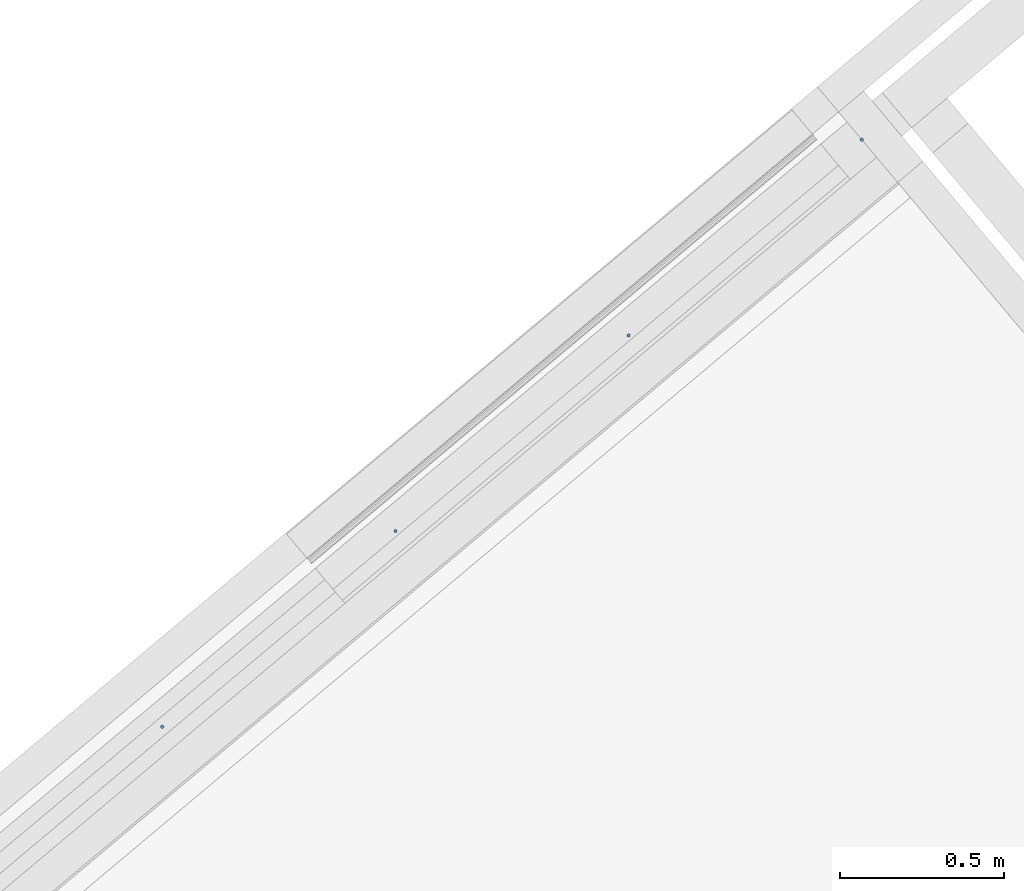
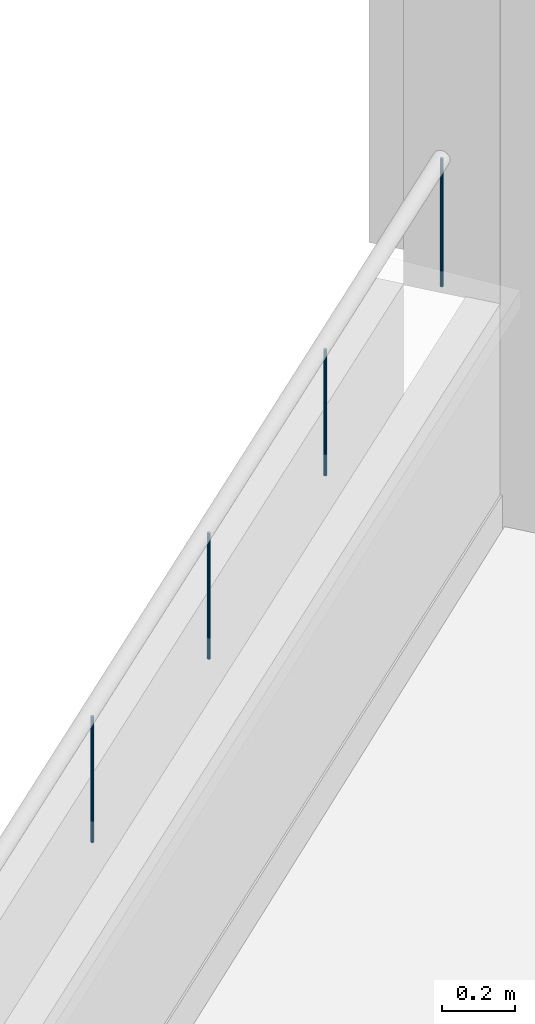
# One storey, part 13 of 321: 4 members, 1 element without a shape of its own.
"""IFC2X3 building model written with IfcOpenShell, lengths in millimetres."""

from ifc_helpers import new_model, entity, si_unit, converted_unit, derived_unit, money_unit, direction, frame, origin_with_axes, place, context, subcontext, project, spatial, faceted_brep, source, transform, mapped, material, type_object, type_shapes, element, aggregate, save


model = new_model("IFC2X3")

# Units and contexts
model_context = context("Model", 3, precision=0.01, world=origin_with_axes(), true_north=direction((0.0, 1.0)))
plan_context = context("Plan", 3, precision=0.01, world=origin_with_axes(), true_north=direction((0.0, 1.0)))
body_context = subcontext(model_context, "Body", "Model", "MODEL_VIEW")
ifc_project = project(units=[si_unit("LENGTHUNIT", "METRE", prefix="MILLI"), si_unit("AREAUNIT", "SQUARE_METRE"), si_unit("VOLUMEUNIT", "CUBIC_METRE"), converted_unit("PLANEANGLEUNIT", "DEGREE", entity("IfcPlaneAngleMeasure", 0.0174532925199), si_unit("PLANEANGLEUNIT", "RADIAN"), dimensions=[0, 0, 0, 0, 0, 0, 0]), money_unit("EUR"), converted_unit("TIMEUNIT", "Year", entity("IfcTimeMeasure", 31556926.0), si_unit("TIMEUNIT", "SECOND"), dimensions=[0, 0, 1, 0, 0, 0, 0]), si_unit("MASSUNIT", "GRAM", prefix="KILO"), si_unit("THERMODYNAMICTEMPERATUREUNIT", "DEGREE_CELSIUS"), si_unit("LUMINOUSINTENSITYUNIT", "LUMEN"), si_unit("ENERGYUNIT", "JOULE", prefix="MEGA"), derived_unit("THERMALCONDUCTANCEUNIT", [(si_unit("POWERUNIT", "WATT"), 1), (si_unit("LENGTHUNIT", "METRE"), -1), (si_unit("THERMODYNAMICTEMPERATUREUNIT", "KELVIN"), -1)]), derived_unit("SPECIFICHEATCAPACITYUNIT", [(si_unit("ENERGYUNIT", "JOULE"), 1), (si_unit("MASSUNIT", "GRAM", prefix="KILO"), -1), (si_unit("THERMODYNAMICTEMPERATUREUNIT", "KELVIN"), -1)]), derived_unit("MASSDENSITYUNIT", [(si_unit("MASSUNIT", "GRAM", prefix="KILO"), 1), (si_unit("VOLUMEUNIT", "CUBIC_METRE"), -1)])], contexts=[model_context, plan_context])

# Site, building, storey
site_placement = place(None, origin_with_axes())
site = spatial("IfcSite", under=ifc_project, at=site_placement, Name="Fortuinstraat Woensdrecht", CompositionType="ELEMENT")
building_placement = place(site_placement, origin_with_axes())
building = spatial("IfcBuilding", under=site, at=building_placement, Name="IKC Fortuna", CompositionType="ELEMENT")
storey_placement = place(building_placement, frame((0.0, 0.0, 4000.0), z_axis=(0.0, 0.0, 1.0), x_axis=(1.0, 0.0, 0.0)))
storey = spatial("IfcBuildingStorey", under=building, at=storey_placement, Name="01 eerste verdieping", CompositionType="ELEMENT", Elevation=4000.0)

# Railing, members
railing_type = type_object("IfcRailingType", Name="Railing Type", PredefinedType="NOTDEFINED")
railing_placement = place(storey_placement, frame((4151.56334028, 3601.06192057, 2353.5), z_axis=(0.0, 0.0, 1.0), x_axis=(1.0, 0.0, 0.0)))
railing = element("IfcRailing", 1, at=railing_placement, inside=storey, type_object=railing_type, Name="34_Reling_Reling vide", PredefinedType="NOTDEFINED")
ifc_material = material(Name="Metaal - Staal AFW")
member_type_1 = type_object("IfcMemberType", Name="IfcMember", PredefinedType="POST")
shared_shape_1 = source(origin_with_axes(), body_context, "Body", "Brep", [
    faceted_brep([(0.0, -5.0, 0.0), (0.868240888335, -4.92403876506, 0.0), (0.868240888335, -4.92403876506, 425.0), (0.0, -5.0, 425.0), (-0.868240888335, -4.92403876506, 0.0), (-1.71010071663, -4.69846310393, 0.0), (-2.5, -4.33012701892, 0.0), (-3.21393804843, -3.83022221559, 0.0), (-3.83022221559, -3.21393804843, 0.0), (-4.33012701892, -2.5, 0.0), (-4.69846310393, -1.71010071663, 0.0), (-4.92403876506, -0.868240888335, 0.0), (-5.0, 0.0, 0.0), (-4.92403876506, 0.868240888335, 0.0), (-4.69846310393, 1.71010071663, 0.0), (-4.33012701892, 2.5, 0.0), (-3.83022221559, 3.21393804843, 0.0), (-3.21393804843, 3.83022221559, 0.0), (-2.5, 4.33012701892, 0.0), (-1.71010071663, 4.69846310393, 0.0), (-0.868240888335, 4.92403876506, 0.0), (0.0, 5.0, 0.0), (0.868240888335, 4.92403876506, 0.0), (1.71010071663, 4.69846310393, 0.0), (2.5, 4.33012701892, 0.0), (3.21393804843, 3.83022221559, 0.0), (3.83022221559, 3.21393804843, 0.0), (4.33012701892, 2.5, 0.0), (4.69846310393, 1.71010071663, 0.0), (4.92403876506, 0.868240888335, 0.0), (5.0, 0.0, 0.0), (4.92403876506, -0.868240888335, 0.0), (4.69846310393, -1.71010071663, 0.0), (4.33012701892, -2.5, 0.0), (3.83022221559, -3.21393804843, 0.0), (3.21393804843, -3.83022221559, 0.0), (2.5, -4.33012701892, 0.0), (1.71010071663, -4.69846310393, 0.0), (1.71010071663, -4.69846310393, 425.0), (2.5, -4.33012701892, 425.0), (3.21393804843, -3.83022221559, 425.0), (3.83022221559, -3.21393804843, 425.0), (4.33012701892, -2.5, 425.0), (4.69846310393, -1.71010071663, 425.0), (4.92403876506, -0.868240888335, 425.0), (5.0, 0.0, 425.0), (4.92403876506, 0.868240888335, 425.0), (4.69846310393, 1.71010071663, 425.0), (4.33012701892, 2.5, 425.0), (3.83022221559, 3.21393804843, 425.0), (3.21393804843, 3.83022221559, 425.0), (2.5, 4.33012701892, 425.0), (1.71010071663, 4.69846310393, 425.0), (0.868240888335, 4.92403876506, 425.0), (0.0, 5.0, 425.0), (-0.868240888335, 4.92403876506, 425.0), (-1.71010071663, 4.69846310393, 425.0), (-2.5, 4.33012701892, 425.0), (-3.21393804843, 3.83022221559, 425.0), (-3.83022221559, 3.21393804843, 425.0), (-4.33012701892, 2.5, 425.0), (-4.69846310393, 1.71010071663, 425.0), (-4.92403876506, 0.868240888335, 425.0), (-5.0, 0.0, 425.0), (-4.92403876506, -0.868240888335, 425.0), (-4.69846310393, -1.71010071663, 425.0), (-4.33012701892, -2.5, 425.0), (-3.83022221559, -3.21393804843, 425.0), (-3.21393804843, -3.83022221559, 425.0), (-2.5, -4.33012701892, 425.0), (-1.71010071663, -4.69846310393, 425.0), (-0.868240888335, -4.92403876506, 425.0)], [[[0, 1, 2, 3]], [[0, 4, 5, 6, 7, 8, 9, 10, 11, 12, 13, 14, 15, 16, 17, 18, 19, 20, 21, 22, 23, 24, 25, 26, 27, 28, 29, 30, 31, 32, 33, 34, 35, 36, 37, 1]], [[1, 37, 38, 2]], [[3, 2, 38, 39, 40, 41, 42, 43, 44, 45, 46, 47, 48, 49, 50, 51, 52, 53, 54, 55, 56, 57, 58, 59, 60, 61, 62, 63, 64, 65, 66, 67, 68, 69, 70, 71]], [[4, 0, 3, 71]], [[5, 4, 71, 70]], [[6, 5, 70, 69]], [[7, 6, 69, 68]], [[8, 7, 68, 67]], [[9, 8, 67, 66]], [[10, 9, 66, 65]], [[11, 10, 65, 64]], [[12, 11, 64, 63]], [[13, 12, 63, 62]], [[14, 13, 62, 61]], [[15, 14, 61, 60]], [[16, 15, 60, 59]], [[17, 16, 59, 58]], [[18, 17, 58, 57]], [[19, 18, 57, 56]], [[20, 19, 56, 55]], [[21, 20, 55, 54]], [[22, 21, 54, 53]], [[23, 22, 53, 52]], [[24, 23, 52, 51]], [[25, 24, 51, 50]], [[26, 25, 50, 49]], [[27, 26, 49, 48]], [[28, 27, 48, 47]], [[29, 28, 47, 46]], [[30, 29, 46, 45]], [[31, 30, 45, 44]], [[32, 31, 44, 43]], [[33, 32, 43, 42]], [[34, 33, 42, 41]], [[35, 34, 41, 40]], [[36, 35, 40, 39]], [[37, 36, 39, 38]]]),
])
type_shapes(member_type_1, [shared_shape_1])
member_1_placement = place(railing_placement, frame((12.7791375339, -15.3851730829, 0.0), z_axis=(0.0, 0.0, 1.0), x_axis=(1.0, 0.0, 0.0)))
member_1 = element("IfcMember", 2, at=member_1_placement, type_object=member_type_1, material=ifc_material, Name="_Reling - baluster_", ObjectType="POST", context=body_context, shape_type="MappedRepresentation", body=[
    mapped(shared_shape_1, transform((0.0, 0.0, 0.0), x_axis=(-0.642787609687, 0.766044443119, 0.0), y_axis=(-0.766044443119, -0.642787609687, 0.0), z_axis=(0.0, 0.0, 1.0))),
])
member_type_2 = type_object("IfcMemberType", Name="IfcMember", PredefinedType="MEMBER")
shared_shape_2 = source(origin_with_axes(), body_context, "Body", "Brep", [
    faceted_brep([(0.0, -5.0, 0.0), (0.868240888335, -4.92403876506, 0.0), (0.868240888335, -4.92403876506, 418.5), (0.0, -5.0, 418.5), (-0.868240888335, -4.92403876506, 0.0), (-1.71010071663, -4.69846310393, 0.0), (-2.5, -4.33012701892, 0.0), (-3.21393804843, -3.83022221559, 0.0), (-3.83022221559, -3.21393804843, 0.0), (-4.33012701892, -2.5, 0.0), (-4.69846310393, -1.71010071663, 0.0), (-4.92403876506, -0.868240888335, 0.0), (-5.0, 0.0, 0.0), (-4.92403876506, 0.868240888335, 0.0), (-4.69846310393, 1.71010071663, 0.0), (-4.33012701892, 2.5, 0.0), (-3.83022221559, 3.21393804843, 0.0), (-3.21393804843, 3.83022221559, 0.0), (-2.5, 4.33012701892, 0.0), (-1.71010071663, 4.69846310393, 0.0), (-0.868240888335, 4.92403876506, 0.0), (0.0, 5.0, 0.0), (0.868240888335, 4.92403876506, 0.0), (1.71010071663, 4.69846310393, 0.0), (2.5, 4.33012701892, 0.0), (3.21393804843, 3.83022221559, 0.0), (3.83022221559, 3.21393804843, 0.0), (4.33012701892, 2.5, 0.0), (4.69846310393, 1.71010071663, 0.0), (4.92403876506, 0.868240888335, 0.0), (5.0, 0.0, 0.0), (4.92403876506, -0.868240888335, 0.0), (4.69846310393, -1.71010071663, 0.0), (4.33012701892, -2.5, 0.0), (3.83022221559, -3.21393804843, 0.0), (3.21393804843, -3.83022221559, 0.0), (2.5, -4.33012701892, 0.0), (1.71010071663, -4.69846310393, 0.0), (1.71010071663, -4.69846310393, 418.5), (2.5, -4.33012701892, 418.5), (3.21393804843, -3.83022221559, 418.5), (3.83022221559, -3.21393804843, 418.5), (4.33012701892, -2.5, 418.5), (4.69846310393, -1.71010071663, 418.5), (4.92403876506, -0.868240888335, 418.5), (5.0, 0.0, 418.5), (4.92403876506, 0.868240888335, 418.5), (4.69846310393, 1.71010071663, 418.5), (4.33012701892, 2.5, 418.5), (3.83022221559, 3.21393804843, 418.5), (3.21393804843, 3.83022221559, 418.5), (2.5, 4.33012701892, 418.5), (1.71010071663, 4.69846310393, 418.5), (0.868240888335, 4.92403876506, 418.5), (0.0, 5.0, 418.5), (-0.868240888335, 4.92403876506, 418.5), (-1.71010071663, 4.69846310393, 418.5), (-2.5, 4.33012701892, 418.5), (-3.21393804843, 3.83022221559, 418.5), (-3.83022221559, 3.21393804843, 418.5), (-4.33012701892, 2.5, 418.5), (-4.69846310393, 1.71010071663, 418.5), (-4.92403876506, 0.868240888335, 418.5), (-5.0, 0.0, 418.5), (-4.92403876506, -0.868240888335, 418.5), (-4.69846310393, -1.71010071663, 418.5), (-4.33012701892, -2.5, 418.5), (-3.83022221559, -3.21393804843, 418.5), (-3.21393804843, -3.83022221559, 418.5), (-2.5, -4.33012701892, 418.5), (-1.71010071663, -4.69846310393, 418.5), (-0.868240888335, -4.92403876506, 418.5)], [[[0, 1, 2, 3]], [[0, 4, 5, 6, 7, 8, 9, 10, 11, 12, 13, 14, 15, 16, 17, 18, 19, 20, 21, 22, 23, 24, 25, 26, 27, 28, 29, 30, 31, 32, 33, 34, 35, 36, 37, 1]], [[1, 37, 38, 2]], [[3, 2, 38, 39, 40, 41, 42, 43, 44, 45, 46, 47, 48, 49, 50, 51, 52, 53, 54, 55, 56, 57, 58, 59, 60, 61, 62, 63, 64, 65, 66, 67, 68, 69, 70, 71]], [[4, 0, 3, 71]], [[5, 4, 71, 70]], [[6, 5, 70, 69]], [[7, 6, 69, 68]], [[8, 7, 68, 67]], [[9, 8, 67, 66]], [[10, 9, 66, 65]], [[11, 10, 65, 64]], [[12, 11, 64, 63]], [[13, 12, 63, 62]], [[14, 13, 62, 61]], [[15, 14, 61, 60]], [[16, 15, 60, 59]], [[17, 16, 59, 58]], [[18, 17, 58, 57]], [[19, 18, 57, 56]], [[20, 19, 56, 55]], [[21, 20, 55, 54]], [[22, 21, 54, 53]], [[23, 22, 53, 52]], [[24, 23, 52, 51]], [[25, 24, 51, 50]], [[26, 25, 50, 49]], [[27, 26, 49, 48]], [[28, 27, 48, 47]], [[29, 28, 47, 46]], [[30, 29, 46, 45]], [[31, 30, 45, 44]], [[32, 31, 44, 43]], [[33, 32, 43, 42]], [[34, 33, 42, 41]], [[35, 34, 41, 40]], [[36, 35, 40, 39]], [[37, 36, 39, 38]]]),
])
type_shapes(member_type_2, [shared_shape_2])
member_2_placement = place(railing_placement, frame((-697.714316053, -611.559967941, -18.5), z_axis=(0.0, 0.0, 1.0), x_axis=(1.0, 0.0, 0.0)))
member_2 = element("IfcMember", 3, at=member_2_placement, type_object=member_type_2, material=ifc_material, Name="_Onderdeel_Spijlen-x", ObjectType="MEMBER", context=body_context, shape_type="MappedRepresentation", body=[
    mapped(shared_shape_2, transform((0.0, 0.0, 0.0), x_axis=(-0.642787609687, 0.766044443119, 0.0), y_axis=(-0.766044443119, -0.642787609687, 0.0), z_axis=(0.0, 0.0, 1.0))),
])
member_3_placement = place(railing_placement, frame((-1408.20776964, -1207.7347628, -18.5), z_axis=(0.0, 0.0, 1.0), x_axis=(1.0, 0.0, 0.0)))
member_3 = element("IfcMember", 4, at=member_3_placement, type_object=member_type_2, material=ifc_material, Name="_Onderdeel_Spijlen-x", ObjectType="MEMBER", context=body_context, shape_type="MappedRepresentation", body=[
    mapped(shared_shape_2, transform((0.0, 0.0, 0.0), x_axis=(-0.642787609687, 0.766044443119, 0.0), y_axis=(-0.766044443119, -0.642787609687, 0.0), z_axis=(0.0, 0.0, 1.0))),
])
member_4_placement = place(railing_placement, frame((-2118.70122323, -1803.90955766, -18.5), z_axis=(0.0, 0.0, 1.0), x_axis=(1.0, 0.0, 0.0)))
member_4 = element("IfcMember", 5, at=member_4_placement, type_object=member_type_2, material=ifc_material, Name="_Onderdeel_Spijlen-x", ObjectType="MEMBER", context=body_context, shape_type="MappedRepresentation", body=[
    mapped(shared_shape_2, transform((0.0, 0.0, 0.0), x_axis=(-0.642787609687, 0.766044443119, 0.0), y_axis=(-0.766044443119, -0.642787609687, 0.0), z_axis=(0.0, 0.0, 1.0))),
])
aggregate(railing, [member_1, member_2, member_3, member_4])

save(model, "model.ifc")
